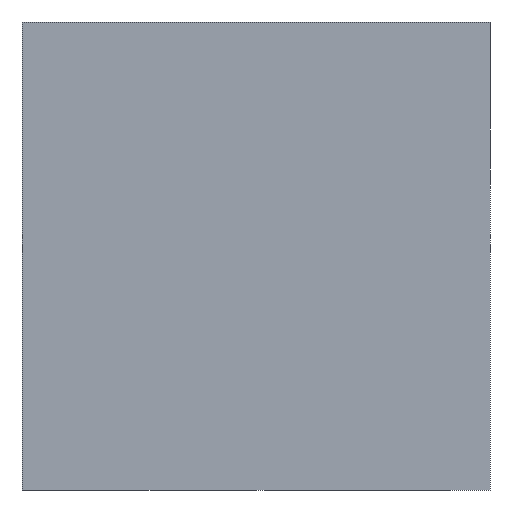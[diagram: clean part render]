
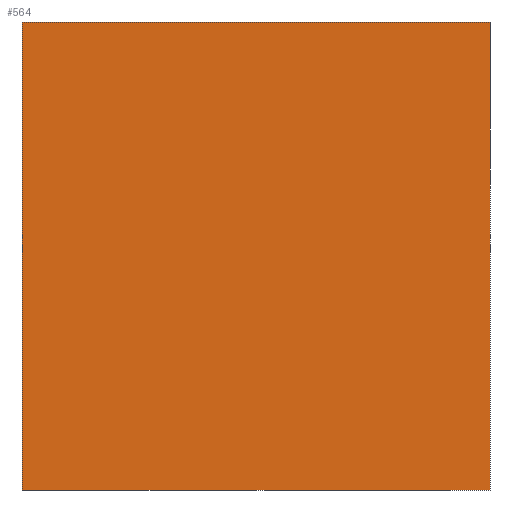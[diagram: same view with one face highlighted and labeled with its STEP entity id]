
A CAD part, left-side view. The second image highlights one B-rep face of the part: STEP entity #564.
In plain terms, the highlighted planar face has unit normal (-1, 0, 0).
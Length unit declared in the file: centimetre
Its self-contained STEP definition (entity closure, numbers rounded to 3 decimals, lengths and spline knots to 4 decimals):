
#14 = VECTOR ( 'NONE', #331, 100. ) ;
#56 = DIRECTION ( 'NONE',  ( 0., 0., -1. ) ) ;
#62 = FACE_OUTER_BOUND ( 'NONE', #136, .T. ) ;
#83 = EDGE_CURVE ( 'NONE', #697, #271, #223, .T. ) ;
#136 = EDGE_LOOP ( 'NONE', ( #340, #190, #772, #924 ) ) ;
#190 = ORIENTED_EDGE ( 'NONE', *, *, #678, .F. ) ;
#202 = DIRECTION ( 'NONE',  ( 0., -1., 0. ) ) ;
#212 = CARTESIAN_POINT ( 'NONE',  ( 0., 1000., 1000. ) ) ;
#223 = LINE ( 'NONE', #428, #228 ) ;
#228 = VECTOR ( 'NONE', #202, 100. ) ;
#235 = CARTESIAN_POINT ( 'NONE',  ( 0., 1000., 0. ) ) ;
#264 = VECTOR ( 'NONE', #717, 100. ) ;
#271 = VERTEX_POINT ( 'NONE', #530 ) ;
#285 = DIRECTION ( 'NONE',  ( 1., 0., 0. ) ) ;
#331 = DIRECTION ( 'NONE',  ( 0., 0., -1. ) ) ;
#340 = ORIENTED_EDGE ( 'NONE', *, *, #83, .T. ) ;
#380 = CARTESIAN_POINT ( 'NONE',  ( 0., 1000., 1000. ) ) ;
#428 = CARTESIAN_POINT ( 'NONE',  ( 0., 1000., 0. ) ) ;
#445 = CARTESIAN_POINT ( 'NONE',  ( 0., 0., 1000. ) ) ;
#490 = CARTESIAN_POINT ( 'NONE',  ( 0., 1000., 1000. ) ) ;
#530 = CARTESIAN_POINT ( 'NONE',  ( 0., 0., 0. ) ) ;
#555 = AXIS2_PLACEMENT_3D ( 'NONE', #490, #285, #783 ) ;
#564 = ADVANCED_FACE ( 'NONE', ( #62 ), #934, .F. ) ;
#572 = EDGE_CURVE ( 'NONE', #850, #852, #926, .T. ) ;
#573 = EDGE_CURVE ( 'NONE', #850, #697, #859, .T. ) ;
#583 = VECTOR ( 'NONE', #56, 100. ) ;
#586 = CARTESIAN_POINT ( 'NONE',  ( 0., 0., 1000. ) ) ;
#678 = EDGE_CURVE ( 'NONE', #852, #271, #699, .T. ) ;
#697 = VERTEX_POINT ( 'NONE', #235 ) ;
#699 = LINE ( 'NONE', #586, #14 ) ;
#717 = DIRECTION ( 'NONE',  ( 0., -1., 0. ) ) ;
#772 = ORIENTED_EDGE ( 'NONE', *, *, #572, .F. ) ;
#783 = DIRECTION ( 'NONE',  ( 0., 0., -1. ) ) ;
#786 = CARTESIAN_POINT ( 'NONE',  ( 0., 1000., 1000. ) ) ;
#850 = VERTEX_POINT ( 'NONE', #380 ) ;
#852 = VERTEX_POINT ( 'NONE', #445 ) ;
#859 = LINE ( 'NONE', #786, #583 ) ;
#924 = ORIENTED_EDGE ( 'NONE', *, *, #573, .T. ) ;
#926 = LINE ( 'NONE', #212, #264 ) ;
#934 = PLANE ( 'NONE',  #555 ) ;
